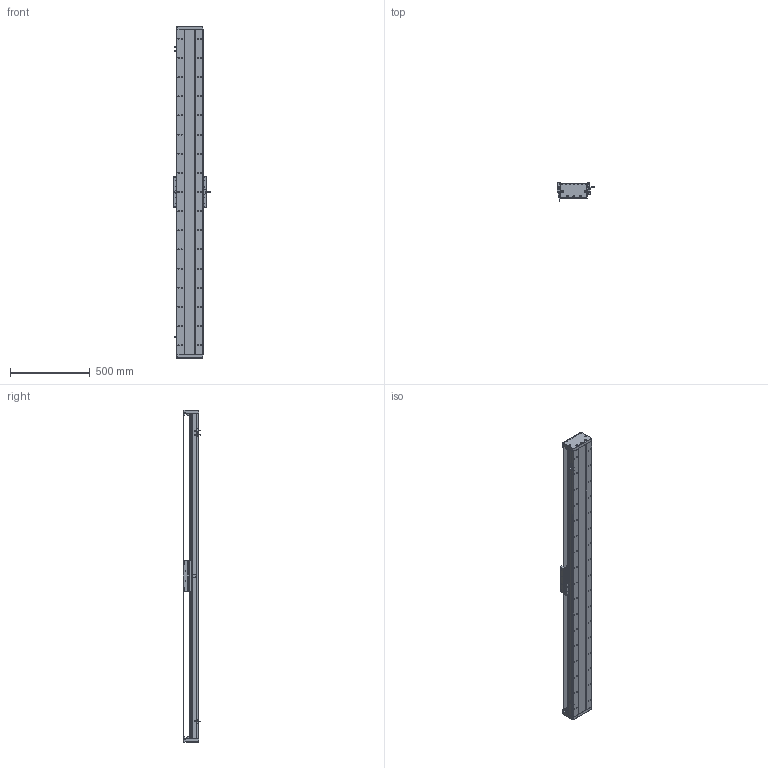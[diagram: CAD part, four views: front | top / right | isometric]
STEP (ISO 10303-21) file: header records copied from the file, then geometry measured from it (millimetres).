
FILE_DESCRIPTION (( 'STEP AP203' ), '1' );
FILE_NAME ('DA-C165-C2-T1800-C010-0.2 直线电机.STEP', '2023-05-11T07:43:19', ( '微软用户' ), ( '微软中国' ), 'SwSTEP 2.0', 'SolidWorks 2019', '' );
FILE_SCHEMA (( 'CONFIG_CONTROL_DESIGN' ));
Length unit declared in the file: millimetre
Products named in the file (18): 复件 六角薄螺母 M3^DA-C165-C2-T-C010-0.2-N 直线电机_GB_FASTENER_NUT_STNAB M3-C; 复件 CKM02-W075-C1C2-TP-3.0 一体电机-C2^DA-C165-C2-T-C010-0.2-N 直线电机; IU-CU165-L-00 菁釱_L2040; 复件 DMA-010-0.2 读数头^DA-C165-C2-T-C010-0.2-N 直线电机; 葩璃 DA95-GT-T-00^IU-CU165-L 菁釱絳寢_T; IU-CU165-L 菁釱絳寢; 珨极趙賑雄怢啣wf-C2; 复件 DA165-GD-DG-H-00 端盖^复件 CU165钢带组件_DA-C165-C2-T-C010-0.2-N 直线电机; 复件 DA165-GDLK-00 钢带拉块^复件 CU165钢带组件_DA-C165-C2-T-C010-0.2-N 直线电机; 葩璃 CKM01-W075-TRL^DA-C165-C2-T-C010-0.2-N 眻盄萇儂; 葩璃 PM-T45^DA-C165-C2-T-C010-0.2-N 眻盄萇儂; 复件 DA165-GYP-00 光电感应片^DA-C165-C2-T-C010-0.2-N 直线电机; DA-C165-C2-T1800-C010-0.2 眻盄萇儂; 复件 DA95-HXJ-00 缓冲橡胶^DA-C165-C2-T-C010-0.2-N 直线电机; 复件 DA165-GD-1860-002-00 钢带盖板^复件 CU165钢带组件_DA-C165-C2-T-C010-0.2-N 直线电机; 复件 DA165-GDYK-00 钢带压块^复件 CU165钢带组件_DA-C165-C2-T-C010-0.2-N 直线电机; 复件 CU165钢带组件^DA-C165-C2-T-C010-0.2-N 直线电机; 复件 XD-U-02L 磁栅尺^DA-C165-C2-T-C010-0.2-N 直线电机_T
Assembly tree (33 placements, depth 3):
  DA-C165-C2-T1800-C010-0.2 眻盄萇儂
    IU-CU165-L 菁釱絳寢
      IU-CU165-L-00 菁釱_L2040
      葩璃 DA95-GT-T-00^IU-CU165-L 菁釱絳寢_T  x4
    复件 XD-U-02L 磁栅尺^DA-C165-C2-T-C010-0.2-N 直线电机_T
    葩璃 PM-T45^DA-C165-C2-T-C010-0.2-N 眻盄萇儂  x3
    葩璃 CKM01-W075-TRL^DA-C165-C2-T-C010-0.2-N 眻盄萇儂
    复件 CU165钢带组件^DA-C165-C2-T-C010-0.2-N 直线电机
      复件 DA165-GD-DG-H-00 端盖^复件 CU165钢带组件_DA-C165-C2-T-C010-0.2-N 直线电机  x2
      复件 DA165-GDYK-00 钢带压块^复件 CU165钢带组件_DA-C165-C2-T-C010-0.2-N 直线电机  x2
      复件 DA165-GD-1860-002-00 钢带盖板^复件 CU165钢带组件_DA-C165-C2-T-C010-0.2-N 直线电机
      复件 DA165-GDLK-00 钢带拉块^复件 CU165钢带组件_DA-C165-C2-T-C010-0.2-N 直线电机  x2
    复件 DA95-HXJ-00 缓冲橡胶^DA-C165-C2-T-C010-0.2-N 直线电机  x4
    复件 DA165-GYP-00 光电感应片^DA-C165-C2-T-C010-0.2-N 直线电机
    复件 DMA-010-0.2 读数头^DA-C165-C2-T-C010-0.2-N 直线电机
    复件 CKM02-W075-C1C2-TP-3.0 一体电机-C2^DA-C165-C2-T-C010-0.2-N 直线电机
    复件 六角薄螺母 M3^DA-C165-C2-T-C010-0.2-N 直线电机_GB_FASTENER_NUT_STNAB M3-C  x6
    珨极趙賑雄怢啣wf-C2
Bounding box: 233 x 111.45 x 2080 mm (x, y, z)
Volume: 12003840.6 mm3; surface area: 3557878.8 mm2
Topology: 70 solids, 70 shells, 3607 faces, 10363 edges, 6587 vertices
Faces by surface type: cylinder 2045, plane 1082, cone 430, torus 46, sphere 4
Entity records: 117119 total; most frequent: CARTESIAN_POINT 30415, ORIENTED_EDGE 17898, DIRECTION 17541, EDGE_CURVE 8949, AXIS2_PLACEMENT_3D 6679, VERTEX_POINT 5823, VECTOR 4183, LINE 4183
